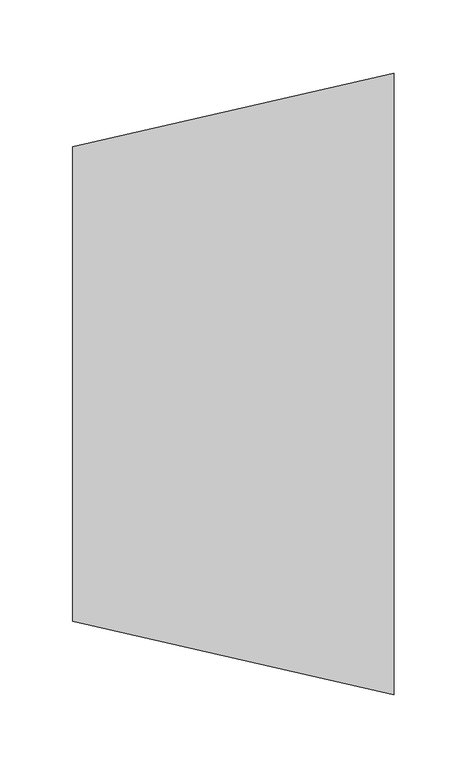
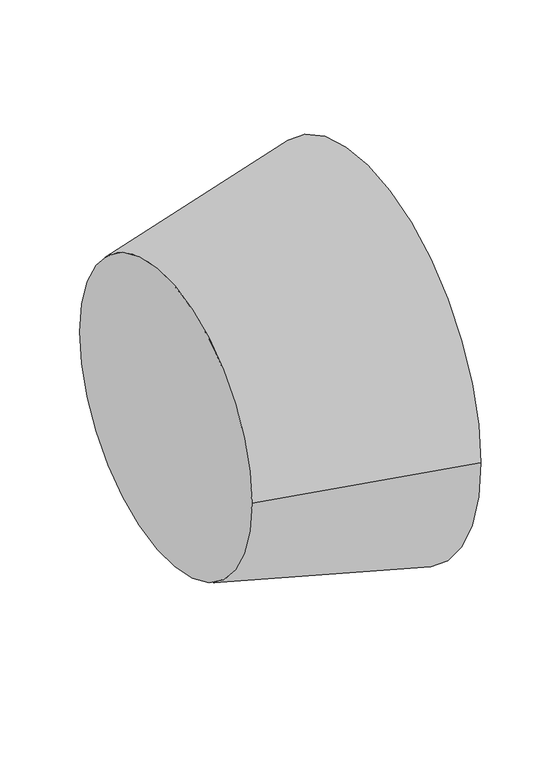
"""IFC4 building model written with IfcOpenShell, lengths in millimetres: pipe fitting geometry, ADSK_ДетальСтальнаяСварная_Переход_ГОСТ17378-2001 : Исполнение 2."""

from ifc_helpers import new_model, si_unit, frame, origin, place, context, project, spatial, polyline, circle_curve, source, transform, mapped, element, save
from ifc_brep_helpers import plane_surface, revolved_surface, advanced_brep


def pipe_fitting_c58b9a85(model_context):
    return source(origin(), model_context, "Body", "AdvancedBrep", [
        advanced_brep(
        [(220.0, -213.0, 0.0), (220.0, 213.0, 0.0), (0.0, -162.5, 0.0), (0.0, 162.5, 0.0)],
        [
            (0, 1, circle_curve(frame((220.0, 0.0, 0.0), z_axis=(1.0, 0.0, 0.0), x_axis=(0.0, -1.0, 0.0)), 213.0)),
            (1, 0, circle_curve(frame((220.0, 0.0, 0.0), z_axis=(1.0, 0.0, 0.0), x_axis=(0.0, 1.0, 0.0)), 213.0)),
            (2, 3, circle_curve(frame((0.0, 0.0, 0.0), z_axis=(-1.0, 0.0, 0.0), x_axis=(0.0, 1.0, 0.0)), 162.5)),
            (3, 2, circle_curve(frame((0.0, 0.0, 0.0), z_axis=(-1.0, 0.0, 0.0), x_axis=(0.0, -1.0, 0.0)), 162.5)),
            (3, 1),
            (0, 2),
        ],
        [
            plane_surface(frame((220.0, 0.0, 0.0), z_axis=(1.0, 0.0, 0.0), x_axis=(0.0, 0.0, -1.0))),
            plane_surface(frame((0.0, 0.0, 0.0), z_axis=(-1.0, 0.0, 0.0), x_axis=(0.0, 0.0, -1.0))),
            revolved_surface(polyline([(0.0, 162.50000000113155, 0.0), (220.0, 213.0, 0.0)]), (-707.9207921, 0.0, 0.0), (1.0, 0.0, 0.0)),
            revolved_surface(polyline([(0.0, -162.50000000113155, 0.0), (220.0, -213.0, 0.0)]), (-707.9207921, 0.0, 0.0), (1.0, 0.0, 0.0)),
        ],
        [
            (0, [[1, 2]]),
            (1, [[3, 4]]),
            (2, [[-4, 5, -1, 6]]),
            (3, [[-3, -6, -2, -5]]),
        ],
    ),
    ])


if __name__ == "__main__":
    model = new_model("IFC4")
    model_context = context("Model", 3, world=origin())
    ifc_project = project(units=[si_unit("LENGTHUNIT", "METRE", prefix="MILLI")], contexts=[model_context])
    site = spatial("IfcSite", under=ifc_project)
    building = spatial("IfcBuilding", under=site)
    placement = place(None, origin())
    pipe_fitting_shape = pipe_fitting_c58b9a85(model_context)
    element("IfcPipeFitting", 1, ObjectType="ADSK_ДетальСтальнаяСварная_Переход_ГОСТ17378-2001 : Исполнение 2", at=placement, inside=building, context=model_context, shape_type="MappedRepresentation", body=[
        mapped(pipe_fitting_shape, transform((0.0, 0.0, 0.0), x_axis=(1.0, 0.0, 0.0), y_axis=(0.0, 1.0, 0.0), z_axis=(0.0, 0.0, 1.0))),
    ])
    save(model, "model.ifc")
